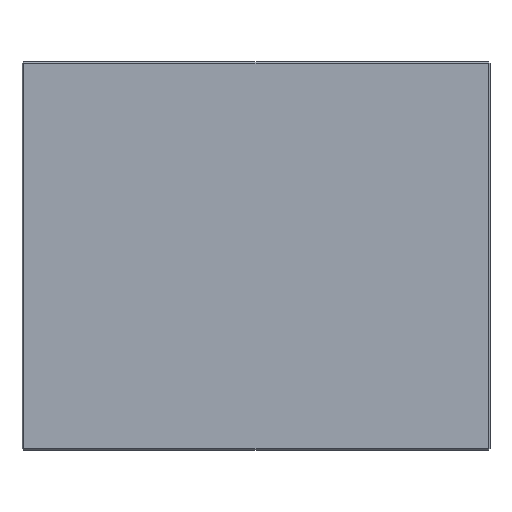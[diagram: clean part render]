
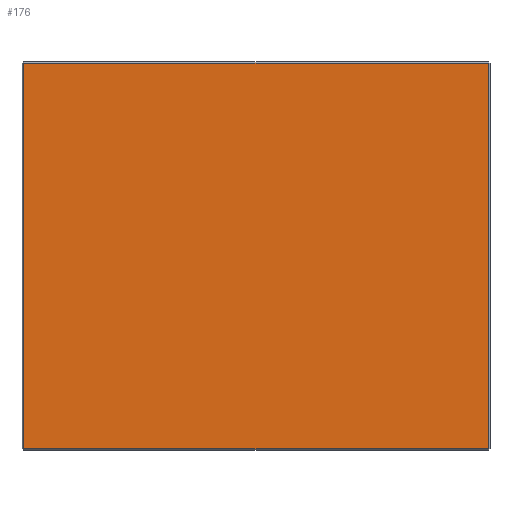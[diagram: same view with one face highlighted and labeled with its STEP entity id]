
A CAD part, front view. The second image highlights one B-rep face of the part: STEP entity #176.
In plain terms, the highlighted planar face has unit normal (0, -1, 0).
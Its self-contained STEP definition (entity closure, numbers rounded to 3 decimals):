
#14 = LINE ( 'NONE', #603, #23 ) ;
#23 = VECTOR ( 'NONE', #442, 1000. ) ;
#30 = FACE_OUTER_BOUND ( 'NONE', #489, .T. ) ;
#38 = CARTESIAN_POINT ( 'NONE',  ( 147., 0., 122. ) ) ;
#44 = VERTEX_POINT ( 'NONE', #38 ) ;
#68 = EDGE_CURVE ( 'NONE', #504, #44, #321, .T. ) ;
#84 = DIRECTION ( 'NONE',  ( 0., 0., 1. ) ) ;
#95 = DIRECTION ( 'NONE',  ( 0., 0., 1. ) ) ;
#98 = EDGE_CURVE ( 'NONE', #44, #583, #560, .T. ) ;
#130 = CARTESIAN_POINT ( 'NONE',  ( 147., 0., 0. ) ) ;
#146 = CARTESIAN_POINT ( 'NONE',  ( -147., 0., 122. ) ) ;
#176 = ADVANCED_FACE ( 'NONE', ( #30 ), #586, .F. ) ;
#178 = EDGE_CURVE ( 'NONE', #583, #185, #14, .T. ) ;
#185 = VERTEX_POINT ( 'NONE', #555 ) ;
#211 = CARTESIAN_POINT ( 'NONE',  ( 0., 0., 122. ) ) ;
#283 = DIRECTION ( 'NONE',  ( -1., 0., 0. ) ) ;
#284 = CARTESIAN_POINT ( 'NONE',  ( 147., 0., -122. ) ) ;
#290 = ORIENTED_EDGE ( 'NONE', *, *, #178, .T. ) ;
#318 = VECTOR ( 'NONE', #84, 1000. ) ;
#321 = LINE ( 'NONE', #130, #318 ) ;
#396 = CARTESIAN_POINT ( 'NONE',  ( 0., 0., 0. ) ) ;
#410 = LINE ( 'NONE', #626, #641 ) ;
#442 = DIRECTION ( 'NONE',  ( 0., 0., -1. ) ) ;
#489 = EDGE_LOOP ( 'NONE', ( #612, #491, #290, #605 ) ) ;
#491 = ORIENTED_EDGE ( 'NONE', *, *, #98, .T. ) ;
#504 = VERTEX_POINT ( 'NONE', #284 ) ;
#511 = VECTOR ( 'NONE', #283, 1000. ) ;
#555 = CARTESIAN_POINT ( 'NONE',  ( -147., 0., -122. ) ) ;
#560 = LINE ( 'NONE', #211, #511 ) ;
#568 = AXIS2_PLACEMENT_3D ( 'NONE', #396, #589, #95 ) ;
#583 = VERTEX_POINT ( 'NONE', #146 ) ;
#586 = PLANE ( 'NONE',  #568 ) ;
#589 = DIRECTION ( 'NONE',  ( 0., 1., 0. ) ) ;
#603 = CARTESIAN_POINT ( 'NONE',  ( -147., 0., 0. ) ) ;
#605 = ORIENTED_EDGE ( 'NONE', *, *, #620, .T. ) ;
#611 = DIRECTION ( 'NONE',  ( 1., 0., 0. ) ) ;
#612 = ORIENTED_EDGE ( 'NONE', *, *, #68, .T. ) ;
#620 = EDGE_CURVE ( 'NONE', #185, #504, #410, .T. ) ;
#626 = CARTESIAN_POINT ( 'NONE',  ( 0., 0., -122. ) ) ;
#641 = VECTOR ( 'NONE', #611, 1000. ) ;
